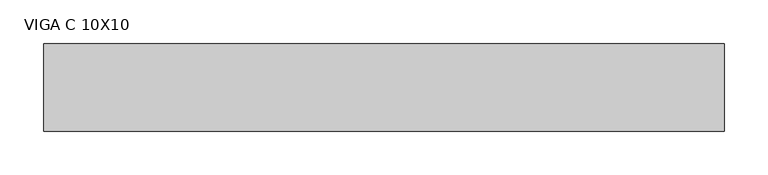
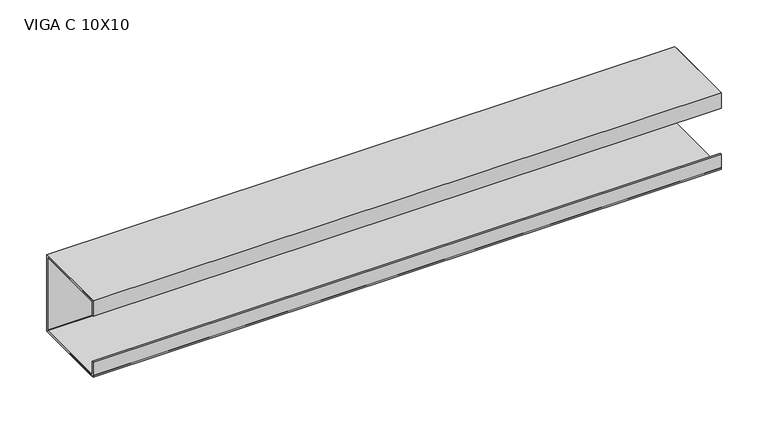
"""IFC4 building model written with IfcOpenShell, lengths in millimetres: beam geometry, VIGA PERFIL C AÇO : VIGA C 10X10."""

from ifc_helpers import new_model, si_unit, point, frame, frame_2d, origin, place, context, project, spatial, polyline, circle_curve, trimmed, segment, composite_curve, outline, extrude, source, transform, mapped, element, save


def viga_c_10x10_3737d6d8(model_context):
    return source(origin(), model_context, "Body", "SweptSolid", [
        extrude(outline(polyline([(9.2, -50.0), (-90.8, -50.0), (-90.8, -30.0), (-88.9, -30.0), (-88.9, -48.1), (7.3, -48.1), (7.3, 48.1), (-88.9, 48.1), (-88.9, 30.0), (-90.8, 30.0), (-90.8, 50.0), (9.2, 50.0), (9.2, -50.0)])), frame((-422.5, 0.0, 0.0), z_axis=(1.0, 0.0, 0.0), x_axis=(0.0, 1.0, 0.0)), (0.0, 0.0, 1.0), 778.0),
        extrude(outline(composite_curve([segment(trimmed(circle_curve(frame_2d((5.4, -46.2)), 3.8), [point((9.2, -46.2))], [point((5.4, -50.0))], False, "CARTESIAN"), True, "CONTINUOUS"), segment(polyline([(5.4, -50.0), (-87.0, -50.0)]), True, "CONTINUOUS"), segment(trimmed(circle_curve(frame_2d((-87.0, -46.2)), 3.8), [point((-87.0, -50.0))], [point((-90.8, -46.2))], False, "CARTESIAN"), True, "CONTINUOUS"), segment(polyline([(-90.8, -46.2), (-90.8, -30.0), (-88.9, -30.0), (-88.9, -46.2)]), True, "CONTINUOUS"), segment(trimmed(circle_curve(frame_2d((-87.0, -46.2)), 1.9), [point((-88.9, -46.2))], [point((-87.0, -48.1))], True, "CARTESIAN"), True, "CONTINUOUS"), segment(polyline([(-87.0, -48.1), (5.4, -48.1)]), True, "CONTINUOUS"), segment(trimmed(circle_curve(frame_2d((5.4, -46.2)), 1.9), [point((5.4, -48.1))], [point((7.3, -46.2))], True, "CARTESIAN"), True, "CONTINUOUS"), segment(polyline([(7.3, -46.2), (7.3, 46.2)]), True, "CONTINUOUS"), segment(trimmed(circle_curve(frame_2d((5.4, 46.2)), 1.9), [point((7.3, 46.2))], [point((5.4, 48.1))], True, "CARTESIAN"), True, "CONTINUOUS"), segment(polyline([(5.4, 48.1), (-87.0, 48.1)]), True, "CONTINUOUS"), segment(trimmed(circle_curve(frame_2d((-87.0, 46.2)), 1.9), [point((-87.0, 48.1))], [point((-88.9, 46.2))], True, "CARTESIAN"), True, "CONTINUOUS"), segment(polyline([(-88.9, 46.2), (-88.9, 30.0), (-90.8, 30.0), (-90.8, 46.2)]), True, "CONTINUOUS"), segment(trimmed(circle_curve(frame_2d((-87.0, 46.2)), 3.8), [point((-90.8, 46.2))], [point((-87.0, 50.0))], False, "CARTESIAN"), True, "CONTINUOUS"), segment(polyline([(-87.0, 50.0), (5.4, 50.0)]), True, "CONTINUOUS"), segment(trimmed(circle_curve(frame_2d((5.4, 46.2)), 3.8), [point((5.4, 50.0))], [point((9.2, 46.2))], False, "CARTESIAN"), True, "CONTINUOUS"), segment(polyline([(9.2, 46.2), (9.2, -46.2)]), True, "CONTINUOUS")], self_intersect=False)), frame((-422.5, 0.0, 0.0), z_axis=(1.0, 0.0, 0.0), x_axis=(0.0, 1.0, 0.0)), (0.0, 0.0, 1.0), 778.0),
    ])


if __name__ == "__main__":
    model = new_model("IFC4")
    model_context = context("Model", 3, world=origin())
    ifc_project = project(units=[si_unit("LENGTHUNIT", "METRE", prefix="MILLI")], contexts=[model_context])
    site = spatial("IfcSite", under=ifc_project)
    building = spatial("IfcBuilding", under=site)
    placement = place(None, origin())
    viga_c_10x10_shape = viga_c_10x10_3737d6d8(model_context)
    element("IfcBeam", 1, ObjectType="VIGA PERFIL C AÇO : VIGA C 10X10", at=placement, inside=building, context=model_context, shape_type="MappedRepresentation", body=[
        mapped(viga_c_10x10_shape, transform((0.0, 0.0, 0.0), x_axis=(1.0, 0.0, 0.0), y_axis=(0.0, 1.0, 0.0), z_axis=(0.0, 0.0, 1.0))),
    ])
    save(model, "model.ifc")
